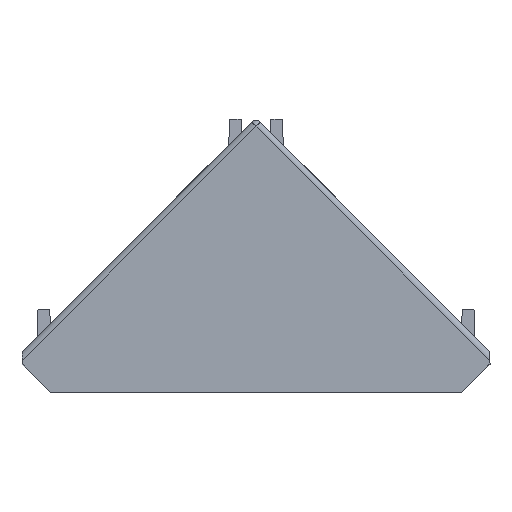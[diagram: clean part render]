
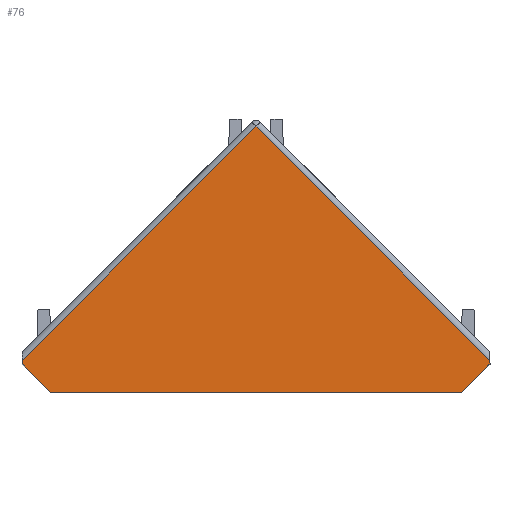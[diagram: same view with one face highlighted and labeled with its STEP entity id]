
A CAD part, top view. The second image highlights one B-rep face of the part: STEP entity #76.
In plain terms, the highlighted planar face has unit normal (0, 0.009, 1).
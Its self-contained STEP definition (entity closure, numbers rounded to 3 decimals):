
#76=ADVANCED_FACE('NONE',(#261),#262,.T.);
#261=FACE_OUTER_BOUND('',#566,.T.);
#262=PLANE('',#567);
#566=EDGE_LOOP('',(#1120,#1121,#1122,#1123,#1124,#1125,#1126));
#567=AXIS2_PLACEMENT_3D('',#1127,#1128,#1129);
#1120=ORIENTED_EDGE('',*,*,#2222,.T.);
#1121=ORIENTED_EDGE('',*,*,#2239,.T.);
#1122=ORIENTED_EDGE('',*,*,#2240,.T.);
#1123=ORIENTED_EDGE('',*,*,#2225,.T.);
#1124=ORIENTED_EDGE('',*,*,#2232,.T.);
#1125=ORIENTED_EDGE('',*,*,#2238,.T.);
#1126=ORIENTED_EDGE('',*,*,#2219,.T.);
#1127=CARTESIAN_POINT('',(-16.971,0.,14.0));
#1128=DIRECTION('',(0.,0.009,1.));
#1129=DIRECTION('',(1.0,0.,0.0));
#2219=EDGE_CURVE('NONE',#2780,#2778,#2781,.T.);
#2222=EDGE_CURVE('NONE',#2778,#2783,#2785,.T.);
#2225=EDGE_CURVE('NONE',#2789,#2790,#2791,.T.);
#2232=EDGE_CURVE('NONE',#2790,#2799,#2801,.T.);
#2238=EDGE_CURVE('NONE',#2799,#2780,#2809,.T.);
#2239=EDGE_CURVE('NONE',#2783,#2810,#2811,.T.);
#2240=EDGE_CURVE('NONE',#2810,#2789,#2812,.T.);
#2778=VERTEX_POINT('NONE',#4014);
#2780=VERTEX_POINT('NONE',#4017);
#2781=LINE('',#4018,#4019);
#2783=VERTEX_POINT('NONE',#4022);
#2785=LINE('',#4034,#4035);
#2789=VERTEX_POINT('NONE',#4050);
#2790=VERTEX_POINT('NONE',#4051);
#2791=LINE('',#4052,#4053);
#2799=VERTEX_POINT('NONE',#4084);
#2801=LINE('',#4087,#4088);
#2809=LINE('',#4119,#4120);
#2810=VERTEX_POINT('NONE',#4121);
#2811=LINE('',#4122,#4123);
#2812=LINE('',#4124,#4125);
#4014=CARTESIAN_POINT('',(19.299,2.328,13.98));
#4017=CARTESIAN_POINT('',(16.971,0.,14.0));
#4018=CARTESIAN_POINT('',(16.971,0.,14.0));
#4019=VECTOR('',#4767,1000.0);
#4022=CARTESIAN_POINT('',(19.299,2.626,13.977));
#4034=CARTESIAN_POINT('',(19.299,3.328,13.971));
#4035=VECTOR('',#4769,1000.0);
#4050=CARTESIAN_POINT('',(-19.299,2.626,13.977));
#4051=CARTESIAN_POINT('',(-19.299,2.328,13.98));
#4052=CARTESIAN_POINT('',(-19.299,3.328,13.971));
#4053=VECTOR('',#4771,1000.0);
#4084=CARTESIAN_POINT('',(-16.971,0.,14.0));
#4087=CARTESIAN_POINT('',(-16.971,0.,14.0));
#4088=VECTOR('',#4776,1000.0);
#4119=CARTESIAN_POINT('',(-16.971,0.,14.0));
#4120=VECTOR('',#4780,1000.0);
#4121=CARTESIAN_POINT('',(0.,21.925,13.809));
#4122=CARTESIAN_POINT('',(-0.351,22.276,13.806));
#4123=VECTOR('',#4781,1000.0);
#4124=CARTESIAN_POINT('',(-18.948,2.977,13.974));
#4125=VECTOR('',#4782,1000.0);
#4767=DIRECTION('',(0.707,0.707,-0.006));
#4769=DIRECTION('',(0.,1.,-0.009));
#4771=DIRECTION('',(0.0,-1.,0.009));
#4776=DIRECTION('',(0.707,-0.707,0.006));
#4780=DIRECTION('',(1.0,0.,0.0));
#4781=DIRECTION('',(-0.707,0.707,-0.006));
#4782=DIRECTION('',(-0.707,-0.707,0.006));
